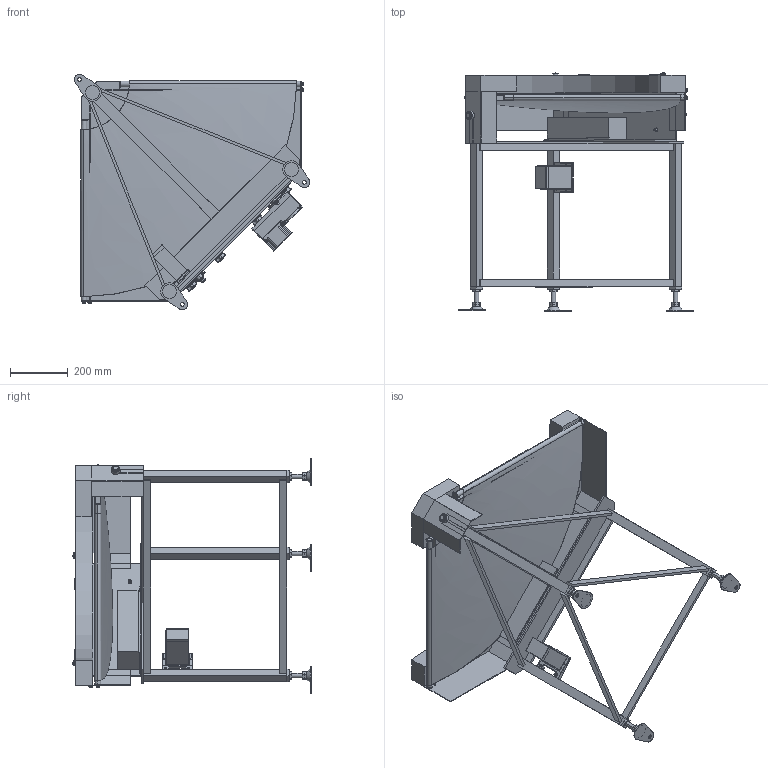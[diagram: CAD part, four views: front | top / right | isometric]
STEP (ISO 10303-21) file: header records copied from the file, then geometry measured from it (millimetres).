
FILE_DESCRIPTION( (''), '2;1');
FILE_NAME ('GBC-HS-309-500-90°-R-DC-30.stp','2025-02-03T11:43:38',(''),(''),'spGate 20.6.2 (****-****-****-****)','','');
FILE_SCHEMA (('AUTOMOTIVE_DESIGN'));
Length unit declared in the file: millimetre
Products named in the file (76): NewModel; TEMP_X_T-prt0; TEMP_X_T-prt1; TEMP_X_T-prt2; TEMP_X_T-prt3; TEMP_X_T-prt4; TEMP_X_T-prt5; TEMP_X_T-prt6; TEMP_X_T-prt7; TEMP_X_T-prt8; TEMP_X_T-prt9; TEMP_X_T-prt10; TEMP_X_T-prt11; TEMP_X_T-prt12; TEMP_X_T-prt13; TEMP_X_T-prt14; TEMP_X_T-prt15; TEMP_X_T-prt16; TEMP_X_T-prt17; TEMP_X_T-prt18; TEMP_X_T-prt19; TEMP_X_T-prt20; TEMP_X_T-prt21; TEMP_X_T-prt22; TEMP_X_T-prt23; TEMP_X_T-prt24; TEMP_X_T-prt25; TEMP_X_T-prt26; TEMP_X_T-prt27; TEMP_X_T-prt28; TEMP_X_T-prt29; TEMP_X_T-prt30; TEMP_X_T-prt31; TEMP_X_T-prt32; TEMP_X_T-prt33; TEMP_X_T-prt34; TEMP_X_T-prt35; TEMP_X_T-prt36; TEMP_X_T-prt37; TEMP_X_T-prt38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
Assembly tree (75 placements, depth 2):
  NewModel
    TEMP_X_T-prt0
    TEMP_X_T-prt1
    TEMP_X_T-prt2
    TEMP_X_T-prt3
    TEMP_X_T-prt4
    TEMP_X_T-prt5
    TEMP_X_T-prt6
    TEMP_X_T-prt7
    TEMP_X_T-prt8
    TEMP_X_T-prt9
    TEMP_X_T-prt10
    TEMP_X_T-prt11
    TEMP_X_T-prt12
    TEMP_X_T-prt13
    TEMP_X_T-prt14
    TEMP_X_T-prt15
    TEMP_X_T-prt16
    TEMP_X_T-prt17
    TEMP_X_T-prt18
    TEMP_X_T-prt19
    TEMP_X_T-prt20
    TEMP_X_T-prt21
    TEMP_X_T-prt22
    TEMP_X_T-prt23
    TEMP_X_T-prt24
    TEMP_X_T-prt25
    TEMP_X_T-prt26
    TEMP_X_T-prt27
    TEMP_X_T-prt28
    TEMP_X_T-prt29
    TEMP_X_T-prt30
    TEMP_X_T-prt31
    TEMP_X_T-prt32
    TEMP_X_T-prt33
    TEMP_X_T-prt34
    TEMP_X_T-prt35
    TEMP_X_T-prt36
    TEMP_X_T-prt37
    TEMP_X_T-prt38
    TEMP_X_T-prt39
    TEMP_X_T-prt40
    TEMP_X_T-prt41
    TEMP_X_T-prt42
    TEMP_X_T-prt43
    TEMP_X_T-prt44
    TEMP_X_T-prt45
    TEMP_X_T-prt46
    TEMP_X_T-prt47
    TEMP_X_T-prt48
    TEMP_X_T-prt49
    TEMP_X_T-prt50
    TEMP_X_T-prt51
    TEMP_X_T-prt52
    TEMP_X_T-prt53
    TEMP_X_T-prt54
    TEMP_X_T-prt55
    TEMP_X_T-prt56
    TEMP_X_T-prt57
    TEMP_X_T-prt58
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Bounding box: 818.52 x 827.92 x 818.52 mm (x, y, z)
Volume: 18944971.5 mm3; surface area: 4757709.7 mm2
Topology: 75 solids, 75 shells, 1472 faces, 3387 edges, 2128 vertices
Faces by surface type: plane 789, cylinder 405, bspline 268, sphere 10
Entity records: 79786 total; most frequent: CARTESIAN_POINT 16933, DIRECTION 6819, ORIENTED_EDGE 6718, COLOUR_RGB 4906, PRESENTATION_STYLE_ASSIGNMENT 4906, STYLED_ITEM 4906, EDGE_CURVE 3359, DRAUGHTING_PRE_DEFINED_CURVE_FONT 3359
